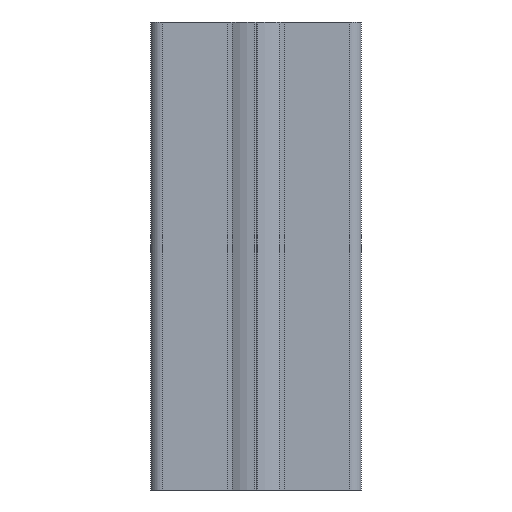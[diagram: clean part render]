
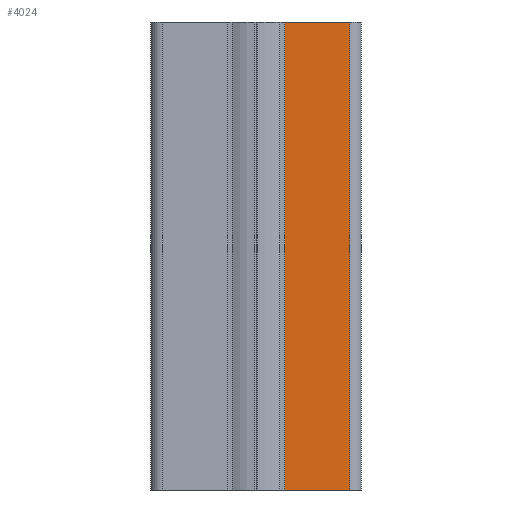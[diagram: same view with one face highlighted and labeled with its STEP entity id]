
A CAD part, front view. The second image highlights one B-rep face of the part: STEP entity #4024.
In plain terms, the highlighted planar face has unit normal (0, -1, 0).
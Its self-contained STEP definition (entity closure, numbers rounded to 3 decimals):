
#3966=CARTESIAN_POINT('',(20.,-22.5,100.0));
#3967=VERTEX_POINT('',#3966);
#3975=CARTESIAN_POINT('',(20.,-22.5,0.0));
#3976=VERTEX_POINT('',#3975);
#3977=CARTESIAN_POINT('',(20.,-22.5,0.0));
#3978=DIRECTION('',(0.0,0.0,1.0));
#3979=VECTOR('',#3978,100.0);
#3980=LINE('',#3977,#3979);
#3981=EDGE_CURVE('',#3976,#3967,#3980,.T.);
#3994=CARTESIAN_POINT('',(20.,-22.5,0.0));
#3995=DIRECTION('',(0.0,-1.0,0.0));
#3996=DIRECTION('',(0.0,0.0,-1.0));
#3997=AXIS2_PLACEMENT_3D('',#3994,#3995,#3996);
#3998=PLANE('',#3997);
#3999=CARTESIAN_POINT('',(6.1,-22.5,100.0));
#4000=VERTEX_POINT('',#3999);
#4001=CARTESIAN_POINT('',(20.,-22.5,100.0));
#4002=DIRECTION('',(-1.0,0.0,0.0));
#4003=VECTOR('',#4002,13.9);
#4004=LINE('',#4001,#4003);
#4005=EDGE_CURVE('',#3967,#4000,#4004,.T.);
#4006=ORIENTED_EDGE('',*,*,#4005,.T.);
#4007=CARTESIAN_POINT('',(6.1,-22.5,0.0));
#4008=VERTEX_POINT('',#4007);
#4009=CARTESIAN_POINT('',(6.1,-22.5,0.0));
#4010=DIRECTION('',(0.0,0.0,1.0));
#4011=VECTOR('',#4010,100.0);
#4012=LINE('',#4009,#4011);
#4013=EDGE_CURVE('',#4008,#4000,#4012,.T.);
#4014=ORIENTED_EDGE('',*,*,#4013,.F.);
#4015=CARTESIAN_POINT('',(6.1,-22.5,0.0));
#4016=DIRECTION('',(1.0,0.0,0.0));
#4017=VECTOR('',#4016,13.9);
#4018=LINE('',#4015,#4017);
#4019=EDGE_CURVE('',#4008,#3976,#4018,.T.);
#4020=ORIENTED_EDGE('',*,*,#4019,.T.);
#4021=ORIENTED_EDGE('',*,*,#3981,.T.);
#4022=EDGE_LOOP('',(#4006,#4014,#4020,#4021));
#4023=FACE_OUTER_BOUND('',#4022,.T.);
#4024=ADVANCED_FACE('',(#4023),#3998,.T.);
